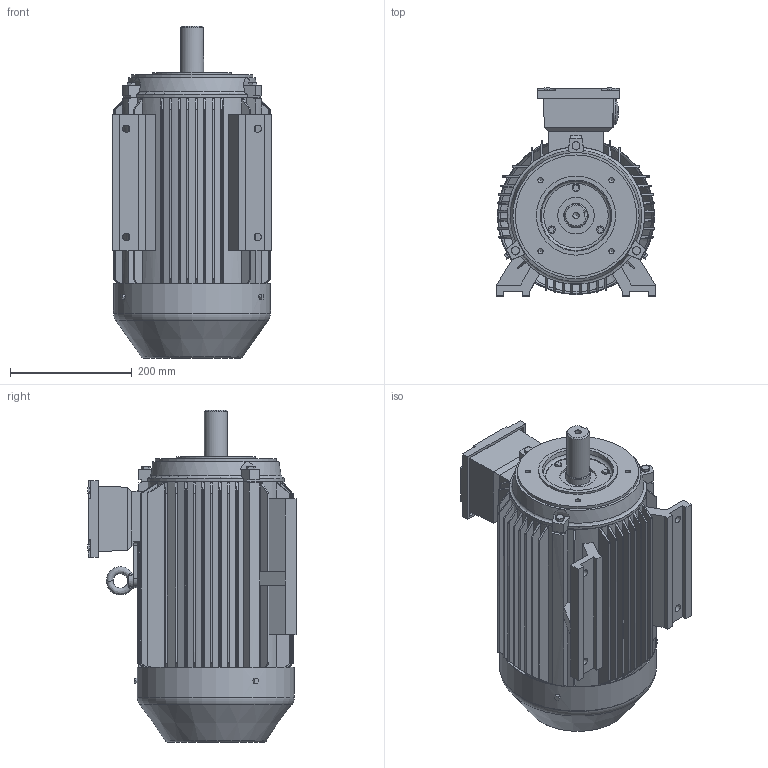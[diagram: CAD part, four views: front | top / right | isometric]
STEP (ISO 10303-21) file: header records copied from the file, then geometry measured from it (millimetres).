
FILE_DESCRIPTION(/* description */ (''),/* implementation_level */ '2;1');
FILE_NAME(/* name */ 'C:/Users/luigi_zhang/Desktop/temp/TE3-132M B34╢Ñ.step',/* time_stamp */ '2020-07-01T16:13:15+10:00',/* author */ (''),/* organization */ (''),/* preprocessor_version */ 'ST-DEVELOPER v18.1',/* originating_system */ 'Autodesk Translation Framework v9.3.0.1241',/* authorisation */ '');
FILE_SCHEMA (('AUTOMOTIVE_DESIGN { 1 0 10303 214 3 1 1 }'));
Products named in the file (8): (Unsaved); »ú×ùGX132M B3ÉÏ; GX132 B14 P24 Í¹Ôµ¶Ë¸Ç
£¨ÖáÉì£©; TE3-132 ·çÕÖ; TE3-132 ÖáÉì; GX112~132 P24½ÓÏßºÐ¸Ç; eyebolts gb_GB_FASTENER_SCREWS_FRS M10-N; hexagon head bolts--product grade c gb_GB_FASTENER_BOLT_HHBC M8X40-N
Assembly tree (9 placements, depth 2):
  (Unsaved)
    »ú×ùGX132M B3ÉÏ
    GX132 B14 P24 Í¹Ôµ¶Ë¸Ç
£¨ÖáÉì£©
    TE3-132 ·çÕÖ
    TE3-132 ÖáÉì
    GX112~132 P24½ÓÏßºÐ¸Ç
    eyebolts gb_GB_FASTENER_SCREWS_FRS M10-N
    hexagon head bolts--product grade c gb_GB_FASTENER_BOLT_HHBC M8X40-N  x3
Bounding box: 262 x 342.3 x 546 mm (x, y, z)
Volume: 16998733 mm3; surface area: 1341567.7 mm2
Topology: 9 solids, 14 shells, 1149 faces, 2797 edges, 1848 vertices
Faces by surface type: plane 894, cylinder 112, bspline 76, cone 52, torus 14, sphere 1
Full cylindrical faces by diameter (mm): 5 x4, 8 x7, 8.5 x4, 10 x5, 10.2 x1, 12 x7, 12.669 x1, 14.696 x1, 19.456 x1, 38 x1, 40 x2, 42.7 x1, 60 x1, 106 x1, 130 x1, 199.5 x1, 215 x1, 256.4 x1, 258.4 x1
Entity records: 53380 total; most frequent: CARTESIAN_POINT 27536, ORIENTED_EDGE 5432, DIRECTION 4735, EDGE_CURVE 2716, LINE 2069, VECTOR 2069, VERTEX_POINT 1802, AXIS2_PLACEMENT_3D 1333
